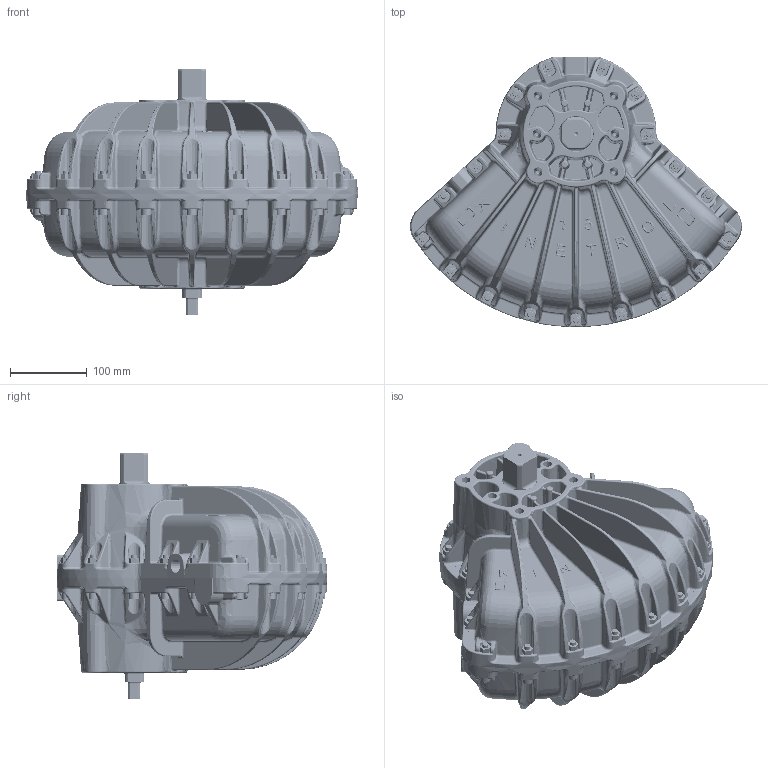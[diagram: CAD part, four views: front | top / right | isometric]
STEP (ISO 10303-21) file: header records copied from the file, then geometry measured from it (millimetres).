
FILE_DESCRIPTION( ( 'Unknown' ), '1' );
FILE_NAME( 'Z:/3D Models for Customers/ACTUATOR MODELS OMO TO 300 (.pwd & .stp & .igs & .asm)/154-100.stp', 'Unknown', ( 'Unknown' ), ( 'Unknown' ), 'PSStep 16.0.42', 'Unknown', ' ' );
FILE_SCHEMA( ( 'AUTOMOTIVE_DESIGN { 1 0 10303 214 1 1 1 1 }' ) );
Length unit declared in the file: millimetre
Products named in the file (5): Assem1; M8 FULL NUT; M8x50; 321-001 SIMPLE FOR CUST. MODELS; 154-100 M.C. VANE SHAFT SIMPLE
Assembly tree (41 placements, depth 2):
  Assem1
    M8 FULL NUT  x19
    M8x50  x19
    321-001 SIMPLE FOR CUST. MODELS  x2
    154-100 M.C. VANE SHAFT SIMPLE
Bounding box: 432.79 x 353 x 321.35 mm (x, y, z)
Volume: 14330450.1 mm3; surface area: 993904.4 mm2
Topology: 41 solids, 45 shells, 5881 faces, 13727 edges, 7658 vertices
Faces by surface type: bspline 1792, cylinder 1267, plane 1107, torus 840, cone 593, sphere 282
Full cylindrical faces by diameter (mm): 4.76 x2, 6 x32, 6.8 x19, 8 x31, 9 x4, 10 x4, 12 x6, 13 x19, 44.754 x2, 45 x2
Entity records: 216222 total; most frequent: CARTESIAN_POINT 140410, ORIENTED_EDGE 11890, DIRECTION 10682, EDGE_CURVE 5945, AXIS2_PLACEMENT_3D 4700, VERTEX_POINT 3460, EDGE_LOOP 2869, FACE_OUTER_BOUND 2742
